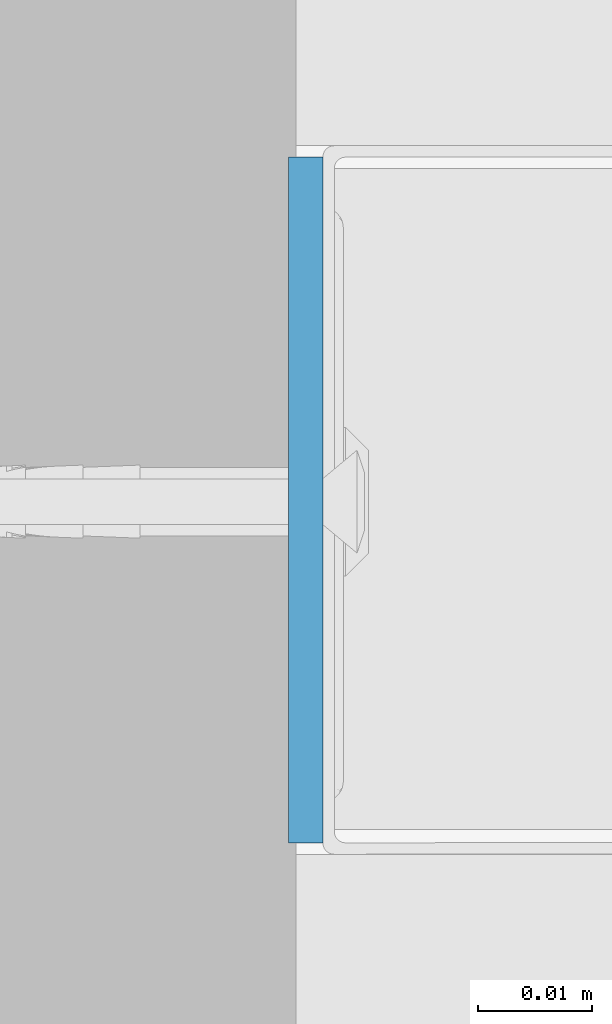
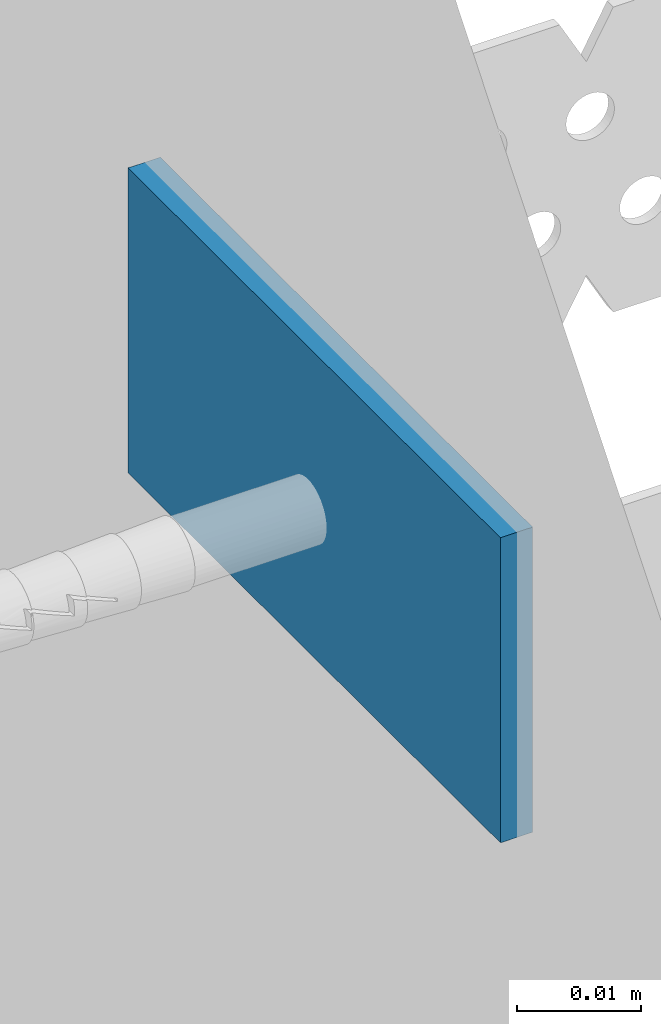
# One storey, part 26 of 62: 1 wall.
"""IFC2X3 building model written with IfcOpenShell, lengths in millimetres."""

from ifc_helpers import new_model, si_unit, frame, origin_with_axes, place, context, subcontext, project, spatial, faceted_brep, material, type_object, element, save


model = new_model("IFC2X3")

# Units and contexts
model_context = context("Model", 3, world=origin_with_axes())
body_context = subcontext(model_context, "Body", "Model", "MODEL_VIEW")
ifc_project = project(units=[si_unit("LENGTHUNIT", "METRE", prefix="MILLI"), si_unit("AREAUNIT", "SQUARE_METRE"), si_unit("VOLUMEUNIT", "CUBIC_METRE")], contexts=[model_context])

# Site, building, storey
site_placement = place(None, frame((2152.14102611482, -2015.0250894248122, 57.61556563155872), z_axis=(0.0, 0.0, 1.0), x_axis=(-1.1102230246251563e-16, 1.0, 0.0)))
site = spatial("IfcSite", under=ifc_project, at=site_placement, Name="Default Site", CompositionType="ELEMENT")
building_placement = place(site_placement, origin_with_axes())
building = spatial("IfcBuilding", under=site, at=building_placement, Name="Default Building", CompositionType="ELEMENT")
storey_placement = place(building_placement, origin_with_axes())
storey = spatial("IfcBuildingStorey", under=building, at=storey_placement, Name="Default Building Storey", CompositionType="ELEMENT", Elevation=57.61556563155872)

# Wall
ifc_material = material(Name="Default")
wall_type = type_object("IfcWallType", Name="Taśma uszczelniająca piankowa RIGIPS szer.30mm#9", PredefinedType="NOTDEFINED")
wall_placement = place(storey_placement, frame((2808.037086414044, 2019.778611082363, 2405.887262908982), z_axis=(0.0, 0.0, 1.0), x_axis=(1.0, 0.0, 0.0)))
element("IfcWall", 1, at=wall_placement, inside=storey, type_object=wall_type, material=ifc_material, Name="Taśma uszczelniająca piankowa RIGIPS szer.30mm", context=body_context, shape_type="Brep", body=[
    faceted_brep([(59.99999865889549, 0.0, 4.511946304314e-12), (0.0, 0.0, 0.0), (1.0828671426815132e-12, -2.2379254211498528e-11, -29.999999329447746), (59.99999865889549, -2.2379254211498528e-11, -29.999999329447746), (0.0, 3.000000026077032, 0.0), (1.0828671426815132e-12, 3.000000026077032, -29.999999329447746), (59.99999865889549, 3.000000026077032, 0.0), (59.99999865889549, 3.000000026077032, -29.999999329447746)], [[[0, 1, 2, 3]], [[1, 4, 5, 2]], [[4, 6, 7, 5]], [[6, 0, 3, 7]], [[7, 3, 2, 5]], [[0, 6, 4, 1]]]),
])

save(model, "model.ifc")
